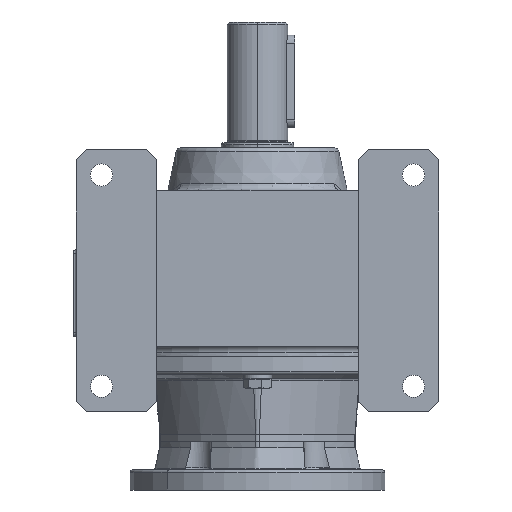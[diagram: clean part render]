
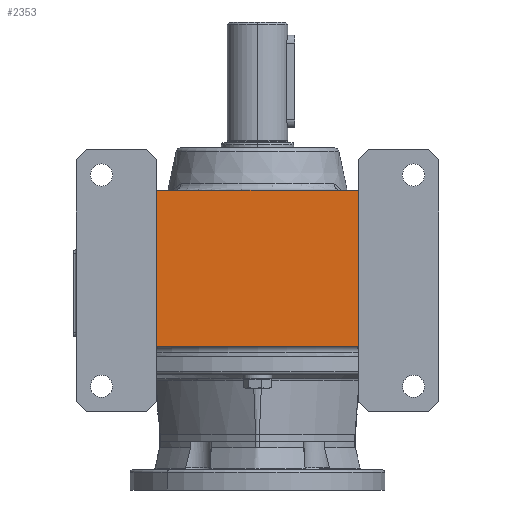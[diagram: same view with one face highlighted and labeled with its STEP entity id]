
A CAD part, front view. The second image highlights one B-rep face of the part: STEP entity #2353.
In plain terms, the highlighted planar face has unit normal (0, -1, 0).
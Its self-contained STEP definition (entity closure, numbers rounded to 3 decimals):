
#373 = CIRCLE ( 'NONE', #83315, 3. ) ;
#374 = CIRCLE ( 'NONE', #83274, 3. ) ;
#2353 = ADVANCED_FACE ( 'NONE', ( #13772 ), #45697, .F. ) ;
#11215 = VERTEX_POINT ( 'NONE', #54077 ) ;
#11217 = VERTEX_POINT ( 'NONE', #54079 ) ;
#11219 = VERTEX_POINT ( 'NONE', #54081 ) ;
#11221 = VERTEX_POINT ( 'NONE', #54083 ) ;
#11223 = VERTEX_POINT ( 'NONE', #54085 ) ;
#11225 = VERTEX_POINT ( 'NONE', #54086 ) ;
#13772 = FACE_OUTER_BOUND ( 'NONE', #90733, .T. ) ;
#13990 = AXIS2_PLACEMENT_3D ( 'NONE', #45699, #45701, #45703 ) ;
#23608 = ORIENTED_EDGE ( 'NONE', *, *, #70902, .F. ) ;
#23611 = ORIENTED_EDGE ( 'NONE', *, *, #70901, .T. ) ;
#23614 = ORIENTED_EDGE ( 'NONE', *, *, #70903, .T. ) ;
#23617 = ORIENTED_EDGE ( 'NONE', *, *, #70900, .T. ) ;
#23620 = ORIENTED_EDGE ( 'NONE', *, *, #70899, .F. ) ;
#23622 = ORIENTED_EDGE ( 'NONE', *, *, #70898, .T. ) ;
#45697 = PLANE ( 'NONE',  #13990 ) ;
#45699 = CARTESIAN_POINT ( 'NONE',  ( -193.636, -135., -165. ) ) ;
#45701 = DIRECTION ( 'NONE',  ( 0., 1., 0. ) ) ;
#45703 = DIRECTION ( 'NONE',  ( 0., 0., 1. ) ) ;
#54077 = CARTESIAN_POINT ( 'NONE',  ( -100., -135., -158. ) ) ;
#54079 = CARTESIAN_POINT ( 'NONE',  ( -100., -135., 0. ) ) ;
#54081 = CARTESIAN_POINT ( 'NONE',  ( -97., -135., -155. ) ) ;
#54083 = CARTESIAN_POINT ( 'NONE',  ( 97., -135., -155. ) ) ;
#54085 = CARTESIAN_POINT ( 'NONE',  ( 100., -135., -158. ) ) ;
#54086 = CARTESIAN_POINT ( 'NONE',  ( 100., -135., 0. ) ) ;
#70898 = EDGE_CURVE ( 'NONE', #11225, #11217, #80586, .T. ) ;
#70899 = EDGE_CURVE ( 'NONE', #11225, #11223, #80589, .T. ) ;
#70900 = EDGE_CURVE ( 'NONE', #11221, #11223, #373, .T. ) ;
#70901 = EDGE_CURVE ( 'NONE', #11219, #11221, #80595, .T. ) ;
#70902 = EDGE_CURVE ( 'NONE', #11215, #11217, #80598, .T. ) ;
#70903 = EDGE_CURVE ( 'NONE', #11215, #11219, #374, .T. ) ;
#80573 = CARTESIAN_POINT ( 'NONE',  ( 97., -135., -158. ) ) ;
#80586 = LINE ( 'NONE', #80587, #83317 ) ;
#80587 = CARTESIAN_POINT ( 'NONE',  ( -193.636, -135., 0. ) ) ;
#80588 = DIRECTION ( 'NONE',  ( -1., 0., 0. ) ) ;
#80589 = LINE ( 'NONE', #80590, #83320 ) ;
#80590 = CARTESIAN_POINT ( 'NONE',  ( 100., -135., -30. ) ) ;
#80591 = DIRECTION ( 'NONE',  ( 0., 0., -1. ) ) ;
#80592 = DIRECTION ( 'NONE',  ( 0., 1., 0. ) ) ;
#80593 = DIRECTION ( 'NONE',  ( 0., 0., 1. ) ) ;
#80594 = CARTESIAN_POINT ( 'NONE',  ( -97., -135., -158. ) ) ;
#80595 = LINE ( 'NONE', #80596, #83325 ) ;
#80596 = CARTESIAN_POINT ( 'NONE',  ( -180., -135., -155. ) ) ;
#80597 = DIRECTION ( 'NONE',  ( 1., 0., 0. ) ) ;
#80598 = LINE ( 'NONE', #80599, #83329 ) ;
#80599 = CARTESIAN_POINT ( 'NONE',  ( -100., -135., -30. ) ) ;
#80600 = DIRECTION ( 'NONE',  ( 0., 0., 1. ) ) ;
#80601 = DIRECTION ( 'NONE',  ( 0., 1., 0. ) ) ;
#80602 = DIRECTION ( 'NONE',  ( 0., 0., 1. ) ) ;
#83274 = AXIS2_PLACEMENT_3D ( 'NONE', #80594, #80601, #80602 ) ;
#83315 = AXIS2_PLACEMENT_3D ( 'NONE', #80573, #80592, #80593 ) ;
#83317 = VECTOR ( 'NONE', #80588, 1000. ) ;
#83320 = VECTOR ( 'NONE', #80591, 1000. ) ;
#83325 = VECTOR ( 'NONE', #80597, 1000. ) ;
#83329 = VECTOR ( 'NONE', #80600, 1000. ) ;
#90733 = EDGE_LOOP ( 'NONE', ( #23608, #23614, #23611, #23617, #23620, #23622 ) ) ;
